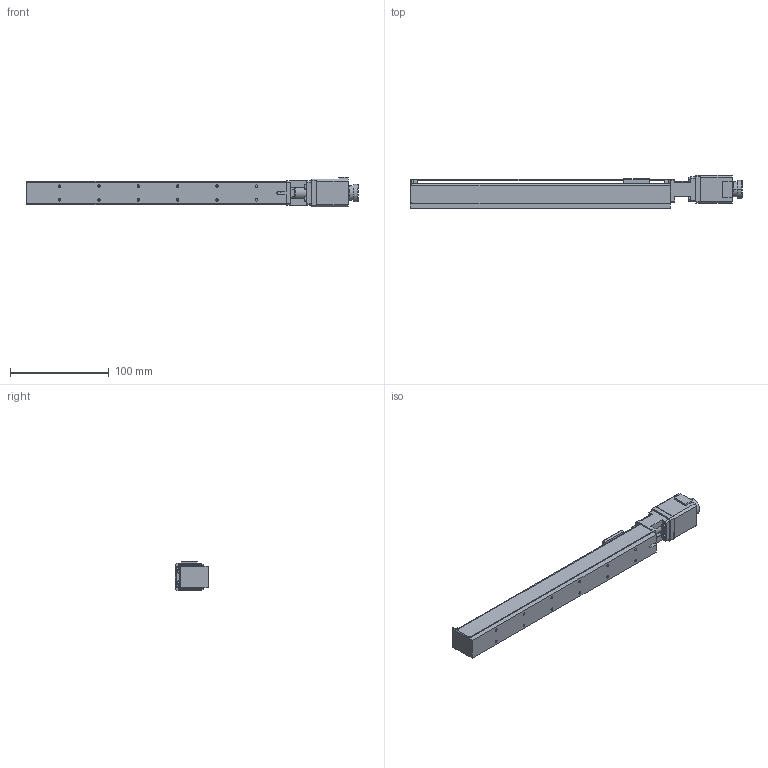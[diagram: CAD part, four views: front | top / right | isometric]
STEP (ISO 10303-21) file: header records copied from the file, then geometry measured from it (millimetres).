
FILE_DESCRIPTION (( 'STEP AP203' ), '1' );
FILE_NAME ('FAS-200-ER.STEP', '2015-08-25T04:58:31', ( '' ), ( '' ), 'SwSTEP 2.0', 'SolidWorks 2015', '' );
FILE_SCHEMA (( 'CONFIG_CONTROL_DESIGN' ));
Length unit declared in the file: millimetre
Products named in the file (1): FAS-200-ER
Bounding box: 337 x 33.5 x 30 mm (x, y, z)
Volume: 105828.4 mm3; surface area: 64539.8 mm2
Topology: 5 solids, 9 shells, 261 faces, 663 edges, 426 vertices
Faces by surface type: plane 147, cylinder 98, cone 14, sphere 2
Entity records: 7972 total; most frequent: DIRECTION 1377, CARTESIAN_POINT 1373, ORIENTED_EDGE 1322, EDGE_CURVE 661, AXIS2_PLACEMENT_3D 462, LINE 453, VECTOR 453, VERTEX_POINT 426
